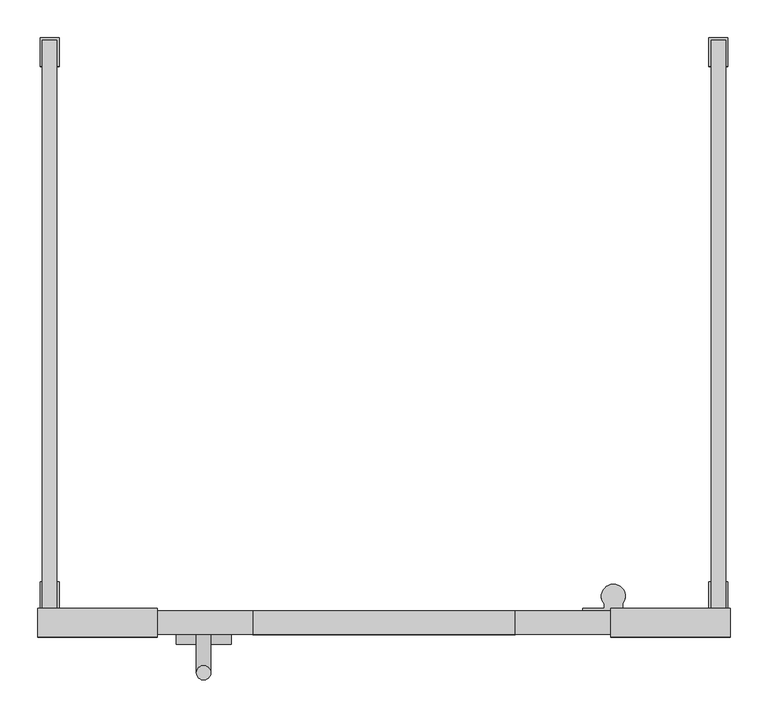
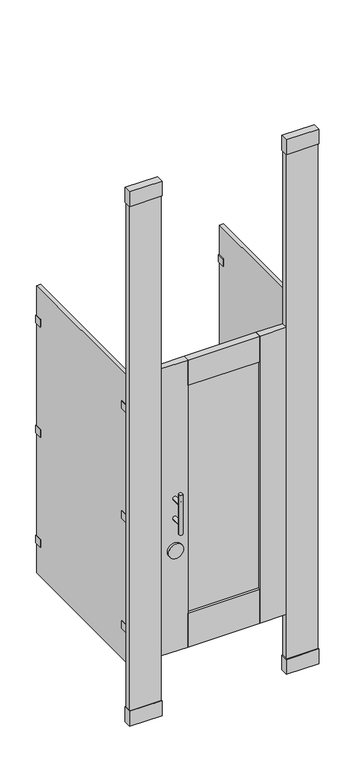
"""IFC4 building model written with IfcOpenShell, lengths in millimetres: proxy geometry, Toilet-Partition_Ironwood-Mfg_High-Pressure-Laminate : High Pressure Laminate - Floor to Ceiling - Door Lite Door."""

from ifc_helpers import new_model, si_unit, point, frame, frame_2d, origin, origin_with_axes, place, context, project, spatial, polyline, circle_curve, ellipse_curve, trimmed, segment, composite_curve, outline, extrude, source, transform, mapped, element, save
from ifc_brep_helpers import plane_surface, cylinder_surface, advanced_brep


def specialty_equipment_fc4f7036(model_context):
    return source(origin(), model_context, "Body", "SolidModel", [
        extrude(outline(polyline([(542.925, -796.925), (542.925, -758.825), (701.675, -758.825), (701.675, -796.925), (542.925, -796.925)])), frame((0.0, 0.0, 2667.0), z_axis=(0.0, 0.0, 1.0), x_axis=(1.0, 0.0, 0.0)), (0.0, 0.0, 1.0), 76.1999999),
        extrude(outline(polyline([(701.675, -758.825), (701.675, -796.925), (542.925, -796.925), (542.925, -758.825), (701.675, -758.825)])), origin_with_axes(), (0.0, 0.0, 1.0), 76.2),
        extrude(outline(polyline([(698.5, -762.0), (698.5, -793.75), (546.1, -793.75), (546.1, -762.0), (698.5, -762.0)])), origin_with_axes(), (0.0, 0.0, 1.0), 2667.0),
        extrude(outline(polyline([(-60.325, -796.925), (-219.075, -796.925), (-219.075, -758.825), (-60.325, -758.825), (-60.325, -796.925)])), frame((0.0, 0.0, 2667.0), z_axis=(0.0, 0.0, 1.0), x_axis=(1.0, 0.0, 0.0)), (0.0, 0.0, 1.0), 76.1999999),
        extrude(outline(polyline([(-219.075, -758.825), (-60.325, -758.825), (-60.325, -796.925), (-219.075, -796.925), (-219.075, -758.825)])), origin_with_axes(), (0.0, 0.0, 1.0), 76.2),
        extrude(outline(polyline([(-215.9, -762.0), (-63.5, -762.0), (-63.5, -793.75), (-215.9, -793.75), (-215.9, -762.0)])), origin_with_axes(), (0.0, 0.0, 1.0), 2667.0),
        extrude(outline(polyline([(415.925, -782.6375), (66.675, -782.6375), (66.675, -773.1125), (415.925, -773.1125), (415.925, -782.6375)])), frame((0.0, 0.0, 479.425), z_axis=(0.0, 0.0, 1.0), x_axis=(1.0, 0.0, 0.0)), (0.0, 0.0, 1.0), 1168.4),
        extrude(outline(polyline([(66.675, -762.0), (66.675, -793.75), (-63.5, -793.75), (-63.5, -762.0), (66.675, -762.0)])), frame((0.0, 0.0, 304.8), z_axis=(0.0, 0.0, 1.0), x_axis=(1.0, 0.0, 0.0)), (0.0, 0.0, 1.0), 1473.2),
        extrude(outline(polyline([(415.925, -762.0), (546.1, -762.0), (546.1, -793.75), (415.925, -793.75), (415.925, -762.0)])), frame((0.0, 0.0, 304.8), z_axis=(0.0, 0.0, 1.0), x_axis=(1.0, 0.0, 0.0)), (0.0, 0.0, 1.0), 1473.2),
        extrude(outline(polyline([(415.925, -762.0), (415.925, -793.75), (66.675, -793.75), (66.675, -762.0), (415.925, -762.0)])), frame((0.0, 0.0, 1647.825), z_axis=(0.0, 0.0, 1.0), x_axis=(1.0, 0.0, 0.0)), (0.0, 0.0, 1.0), 130.175),
        extrude(outline(polyline([(415.925, -762.0), (415.925, -793.75), (66.675, -793.75), (66.675, -762.0), (415.925, -762.0)])), frame((0.0, 0.0, 304.8), z_axis=(0.0, 0.0, 1.0), x_axis=(1.0, 0.0, 0.0)), (0.0, 0.0, 1.0), 174.625),
        extrude(outline(composite_curve([segment(trimmed(circle_curve(frame_2d((827.0875, 1.5875)), 36.5125), [point((827.0875, -34.925))], [point((827.0875, 38.1))], False, "CARTESIAN"), True, "CONTINUOUS"), segment(trimmed(circle_curve(frame_2d((827.0875, 1.5875)), 36.5125), [point((827.0875, 38.1))], [point((827.0875, -34.925))], False, "CARTESIAN"), True, "CONTINUOUS")], self_intersect=False)), frame((0.0, -806.45, 0.0), z_axis=(0.0, 1.0, 0.0), x_axis=(0.0, 0.0, 1.0)), (0.0, 0.0, 1.0), 12.7),
        advanced_brep(
        [(-7.9375, -793.75, 1092.2), (11.1125, -793.75, 1092.2), (-7.9375, -793.75, 990.6), (11.1125, -793.75, 990.6), (11.1125, -844.55, 1092.2), (-7.9375, -844.55, 1092.2), (11.1125, -844.55, 990.6), (-7.9375, -844.55, 990.6), (-7.9375, -844.55, 1143.0), (11.1125, -844.55, 1143.0), (-7.9375, -844.55, 939.8), (11.1125, -844.55, 939.8)],
        [
            (0, 1, circle_curve(frame((1.5875, -793.75, 1092.2), z_axis=(0.0, 1.0, 0.0), x_axis=(1.0, 0.0, 0.0)), 9.525)),
            (1, 0, circle_curve(frame((1.5875, -793.75, 1092.2), z_axis=(0.0, 1.0, 0.0), x_axis=(1.0, 0.0, 0.0)), 9.525)),
            (2, 3, circle_curve(frame((1.5875, -793.75, 990.6), z_axis=(0.0, 1.0, 0.0), x_axis=(1.0, 0.0, 0.0)), 9.525)),
            (3, 2, circle_curve(frame((1.5875, -793.75, 990.6), z_axis=(0.0, 1.0, 0.0), x_axis=(1.0, 0.0, 0.0)), 9.525)),
            (1, 4),
            (4, 5, ellipse_curve(frame((1.5875, -844.55, 1092.2), z_axis=(0.0, 0.7071067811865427, 0.7071067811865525), x_axis=(0.0, -0.7071067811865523, 0.7071067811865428)), 13.4703842, 9.525)),
            (5, 0),
            (5, 4, ellipse_curve(frame((1.5875, -844.55, 1092.2), z_axis=(0.0, 0.7071067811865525, -0.7071067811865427), x_axis=(0.0, -0.7071067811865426, -0.7071067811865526)), 13.4703842, 9.525)),
            (3, 6),
            (6, 7, ellipse_curve(frame((1.5875, -844.55, 990.6), z_axis=(0.0, 0.7071067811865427, 0.7071067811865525), x_axis=(0.0, -0.7071067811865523, 0.7071067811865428)), 13.4703842, 9.525)),
            (7, 2),
            (7, 6, ellipse_curve(frame((1.5875, -844.55, 990.6), z_axis=(0.0, 0.7071067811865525, -0.7071067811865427), x_axis=(0.0, -0.7071067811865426, -0.7071067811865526)), 13.4703842, 9.525)),
            (8, 9, circle_curve(frame((1.5875, -844.55, 1143.0), z_axis=(0.0, 0.0, 1.0), x_axis=(1.0, 0.0, 0.0)), 9.525)),
            (9, 8, circle_curve(frame((1.5875, -844.55, 1143.0), z_axis=(0.0, 0.0, 1.0), x_axis=(1.0, 0.0, 0.0)), 9.525)),
            (10, 11, circle_curve(frame((1.5875, -844.55, 939.8), z_axis=(0.0, 0.0, -1.0), x_axis=(1.0, 0.0, 0.0)), 9.525)),
            (11, 10, circle_curve(frame((1.5875, -844.55, 939.8), z_axis=(0.0, 0.0, -1.0), x_axis=(1.0, 0.0, 0.0)), 9.525)),
            (8, 5),
            (5, 7),
            (7, 10),
            (11, 6),
            (6, 4),
            (4, 9),
        ],
        [
            plane_surface(frame((11.1125, -793.75, 1092.2), z_axis=(0.0, 1.0, 0.0), x_axis=(0.0, 0.0, -1.0))),
            cylinder_surface(frame((1.5875, -793.75, 1092.2), z_axis=(0.0, -1.0, 0.0), x_axis=(1.0, 0.0, 0.0)), 9.525),
            cylinder_surface(frame((1.5875, -793.75, 990.6), z_axis=(0.0, -1.0, 0.0), x_axis=(1.0, 0.0, 0.0)), 9.525),
            plane_surface(frame((11.1125, -844.55, 1143.0), z_axis=(0.0, 0.0, 1.0), x_axis=(0.0, 1.0, 0.0))),
            plane_surface(frame((11.1125, -844.55, 939.8), z_axis=(0.0, 0.0, -1.0), x_axis=(0.0, -1.0, 0.0))),
            cylinder_surface(frame((1.5875, -844.55, 939.8), z_axis=(0.0, 0.0, 1.0), x_axis=(1.0, 0.0, 0.0)), 9.525),
        ],
        [
            (0, [[1, 2]]),
            (0, [[3, 4]]),
            (1, [[-2, 5, 6, 7]]),
            (1, [[-1, -7, 8, -5]]),
            (2, [[-4, 9, 10, 11]]),
            (2, [[-3, -11, 12, -9]]),
            (3, [[13, 14]]),
            (4, [[15, 16]]),
            (5, [[-13, 17, 18, 19, -16, 20, 21, 22]]),
            (5, [[-14, -22, -8, -17]]),
            (5, [[-15, -19, -10, -20]]),
            (5, [[-18, -6, -21, -12]]),
        ],
    ),
        extrude(outline(composite_curve([segment(polyline([(581.3737081, -762.0), (505.1737081, -762.0), (505.1737081, -758.825), (533.7487081, -758.825), (533.7487081, -752.9581331)]), True, "CONTINUOUS"), segment(trimmed(circle_curve(frame_2d((546.1, -742.8902139)), 15.9347861), [point((533.7487081, -752.9581331))], [point((558.4512919, -752.9581331))], False, "CARTESIAN"), True, "CONTINUOUS"), segment(polyline([(558.4512919, -752.9581331), (558.4512919, -758.825), (581.3737081, -758.825), (581.3737081, -762.0)]), True, "CONTINUOUS")], self_intersect=False)), frame((0.0, 0.0, 1574.8), z_axis=(0.0, 0.0, 1.0), x_axis=(1.0, 0.0, 0.0)), (0.0, 0.0, 1.0), 63.5),
        extrude(outline(composite_curve([segment(polyline([(581.3737081, -762.0), (505.1737081, -762.0), (505.1737081, -758.825), (533.7487081, -758.825), (533.7487081, -752.9581331)]), True, "CONTINUOUS"), segment(trimmed(circle_curve(frame_2d((546.1, -742.8902139)), 15.9347861), [point((533.7487081, -752.9581331))], [point((558.4512919, -752.9581331))], False, "CARTESIAN"), True, "CONTINUOUS"), segment(polyline([(558.4512919, -752.9581331), (558.4512919, -758.825), (581.3737081, -758.825), (581.3737081, -762.0)]), True, "CONTINUOUS")], self_intersect=False)), frame((0.0, 0.0, 1009.6500001), z_axis=(0.0, 0.0, 1.0), x_axis=(1.0, 0.0, 0.0)), (0.0, 0.0, 1.0), 63.5),
        extrude(outline(composite_curve([segment(polyline([(581.3737081, -762.0), (505.1737081, -762.0), (505.1737081, -758.825), (533.7487081, -758.825), (533.7487081, -752.9581331)]), True, "CONTINUOUS"), segment(trimmed(circle_curve(frame_2d((546.1, -742.8902139)), 15.9347861), [point((533.7487081, -752.9581331))], [point((558.4512919, -752.9581331))], False, "CARTESIAN"), True, "CONTINUOUS"), segment(polyline([(558.4512919, -752.9581331), (558.4512919, -758.825), (581.3737081, -758.825), (581.3737081, -762.0)]), True, "CONTINUOUS")], self_intersect=False)), frame((0.0, 0.0, 444.5), z_axis=(0.0, 0.0, 1.0), x_axis=(1.0, 0.0, 0.0)), (0.0, 0.0, 1.0), 63.5),
        extrude(outline(polyline([(676.148, -723.9), (676.148, -758.825), (695.198, -758.825), (695.198, -723.9), (698.373, -723.9), (698.373, -762.0), (672.973, -762.0), (672.973, -723.9), (676.148, -723.9)])), frame((0.0, 0.0, 1587.8188137), z_axis=(0.0, 0.0, 1.0), x_axis=(1.0, 0.0, 0.0)), (0.0, 0.0, 1.0), 38.1),
        extrude(outline(polyline([(676.148, -38.1), (672.973, -38.1), (672.973, 0.0), (698.373, 0.0), (698.373, -38.1), (695.198, -38.1), (695.198, -3.175), (676.148, -3.175), (676.148, -38.1)])), frame((0.0, 0.0, 1587.8188137), z_axis=(0.0, 0.0, 1.0), x_axis=(1.0, 0.0, 0.0)), (0.0, 0.0, 1.0), 38.1),
        extrude(outline(polyline([(676.148, -723.9), (676.148, -758.825), (695.198, -758.825), (695.198, -723.9), (698.373, -723.9), (698.373, -762.0), (672.973, -762.0), (672.973, -723.9), (676.148, -723.9)])), frame((0.0, 0.0, 1022.35), z_axis=(0.0, 0.0, 1.0), x_axis=(1.0, 0.0, 0.0)), (0.0, 0.0, 1.0), 38.1),
        extrude(outline(polyline([(676.148, -38.1), (672.973, -38.1), (672.973, 0.0), (698.373, 0.0), (698.373, -38.1), (695.198, -38.1), (695.198, -3.175), (676.148, -3.175), (676.148, -38.1)])), frame((0.0, 0.0, 1022.35), z_axis=(0.0, 0.0, 1.0), x_axis=(1.0, 0.0, 0.0)), (0.0, 0.0, 1.0), 38.1),
        extrude(outline(polyline([(676.148, -723.9), (676.148, -758.825), (695.198, -758.825), (695.198, -723.9), (698.373, -723.9), (698.373, -762.0), (672.973, -762.0), (672.973, -723.9), (676.148, -723.9)])), frame((0.0, 0.0, 457.2), z_axis=(0.0, 0.0, 1.0), x_axis=(1.0, 0.0, 0.0)), (0.0, 0.0, 1.0), 38.1),
        extrude(outline(polyline([(676.148, -38.1), (672.973, -38.1), (672.973, 0.0), (698.373, 0.0), (698.373, -38.1), (695.198, -38.1), (695.198, -3.175), (676.148, -3.175), (676.148, -38.1)])), frame((0.0, 0.0, 457.2), z_axis=(0.0, 0.0, 1.0), x_axis=(1.0, 0.0, 0.0)), (0.0, 0.0, 1.0), 38.1),
        extrude(outline(polyline([(-212.598, -723.9), (-212.598, -758.825), (-193.548, -758.825), (-193.548, -723.9), (-190.373, -723.9), (-190.373, -762.0), (-215.773, -762.0), (-215.773, -723.9), (-212.598, -723.9)])), frame((0.0, 0.0, 1587.8188137), z_axis=(0.0, 0.0, 1.0), x_axis=(1.0, 0.0, 0.0)), (0.0, 0.0, 1.0), 38.1),
        extrude(outline(polyline([(-212.598, -38.1), (-215.773, -38.1), (-215.773, 0.0), (-190.373, 0.0), (-190.373, -38.1), (-193.548, -38.1), (-193.548, -3.175), (-212.598, -3.175), (-212.598, -38.1)])), frame((0.0, 0.0, 1587.8188137), z_axis=(0.0, 0.0, 1.0), x_axis=(1.0, 0.0, 0.0)), (0.0, 0.0, 1.0), 38.1),
        extrude(outline(polyline([(-212.598, -723.9), (-212.598, -758.825), (-193.548, -758.825), (-193.548, -723.9), (-190.373, -723.9), (-190.373, -762.0), (-215.773, -762.0), (-215.773, -723.9), (-212.598, -723.9)])), frame((0.0, 0.0, 1022.35), z_axis=(0.0, 0.0, 1.0), x_axis=(1.0, 0.0, 0.0)), (0.0, 0.0, 1.0), 38.1),
        extrude(outline(polyline([(-212.598, -38.1), (-215.773, -38.1), (-215.773, 0.0), (-190.373, 0.0), (-190.373, -38.1), (-193.548, -38.1), (-193.548, -3.175), (-212.598, -3.175), (-212.598, -38.1)])), frame((0.0, 0.0, 1022.35), z_axis=(0.0, 0.0, 1.0), x_axis=(1.0, 0.0, 0.0)), (0.0, 0.0, 1.0), 38.1),
        extrude(outline(polyline([(-212.598, -723.9), (-212.598, -758.825), (-193.548, -758.825), (-193.548, -723.9), (-190.373, -723.9), (-190.373, -762.0), (-215.773, -762.0), (-215.773, -723.9), (-212.598, -723.9)])), frame((0.0, 0.0, 457.2), z_axis=(0.0, 0.0, 1.0), x_axis=(1.0, 0.0, 0.0)), (0.0, 0.0, 1.0), 38.1),
        extrude(outline(polyline([(-212.598, -38.1), (-215.773, -38.1), (-215.773, 0.0), (-190.373, 0.0), (-190.373, -38.1), (-193.548, -38.1), (-193.548, -3.175), (-212.598, -3.175), (-212.598, -38.1)])), frame((0.0, 0.0, 457.2), z_axis=(0.0, 0.0, 1.0), x_axis=(1.0, 0.0, 0.0)), (0.0, 0.0, 1.0), 38.1),
        extrude(outline(polyline([(-193.548, -3.175), (-193.548, -758.825), (-212.598, -758.825), (-212.598, -3.175), (-193.548, -3.175)])), frame((0.0, 0.0, 304.8), z_axis=(0.0, 0.0, 1.0), x_axis=(1.0, 0.0, 0.0)), (0.0, 0.0, 1.0), 1473.2),
        extrude(outline(polyline([(695.198, -3.175), (695.198, -758.825), (676.148, -758.825), (676.148, -3.175), (695.198, -3.175)])), frame((0.0, 0.0, 304.8), z_axis=(0.0, 0.0, 1.0), x_axis=(1.0, 0.0, 0.0)), (0.0, 0.0, 1.0), 1473.2),
    ])


if __name__ == "__main__":
    model = new_model("IFC4")
    model_context = context("Model", 3, world=origin())
    ifc_project = project(units=[si_unit("LENGTHUNIT", "METRE", prefix="MILLI")], contexts=[model_context])
    site = spatial("IfcSite", under=ifc_project)
    building = spatial("IfcBuilding", under=site)
    placement = place(None, origin())
    specialty_equipment_shape = specialty_equipment_fc4f7036(model_context)
    element("IfcBuildingElementProxy", 1, Name="Toilet-Partition_Ironwood-Mfg_High-Pressure-Laminate : High Pressure Laminate - Floor to Ceiling - Door Lite Door", ObjectType="Toilet-Partition_Ironwood-Mfg_High-Pressure-Laminate : High Pressure Laminate - Floor to Ceiling - Door Lite Door", at=placement, inside=building, context=model_context, shape_type="MappedRepresentation", body=[
        mapped(specialty_equipment_shape, transform((0.0, 0.0, 0.0), x_axis=(1.0, 0.0, 0.0), y_axis=(0.0, 1.0, 0.0), z_axis=(0.0, 0.0, 1.0))),
    ])
    save(model, "model.ifc")
